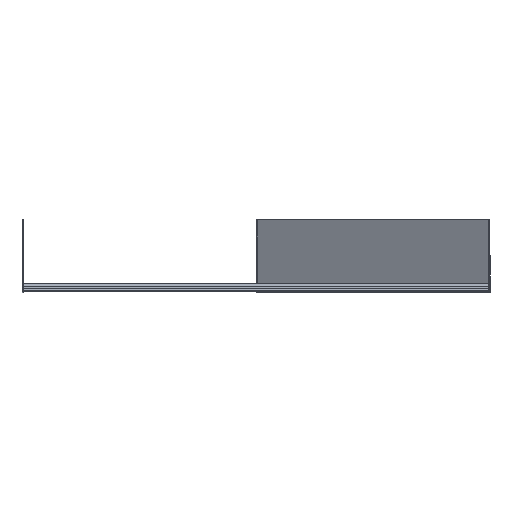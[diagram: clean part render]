
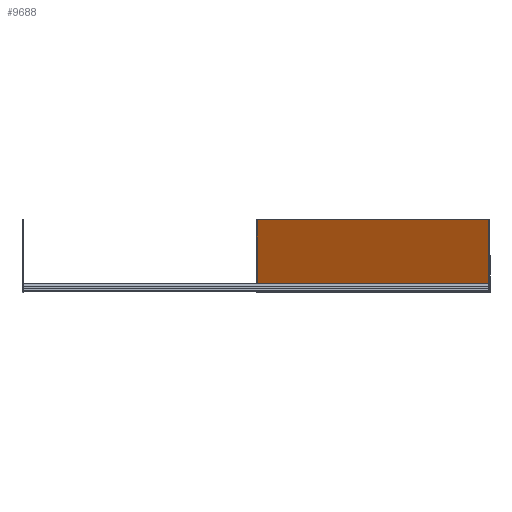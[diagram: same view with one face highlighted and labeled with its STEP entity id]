
A CAD part, top view. The second image highlights one B-rep face of the part: STEP entity #9688.
In plain terms, the highlighted planar face has unit normal (-0.528, 0, 0.849).
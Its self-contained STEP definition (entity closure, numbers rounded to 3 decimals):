
#9 = CARTESIAN_POINT ( 'NONE',  ( 226.651, 0., -278.973 ) ) ;
#52 = LINE ( 'NONE', #3252, #10919 ) ;
#294 = EDGE_LOOP ( 'NONE', ( #8489, #6801, #10212, #4600 ) ) ;
#364 = VERTEX_POINT ( 'NONE', #6896 ) ;
#935 = DIRECTION ( 'NONE',  ( 0.849, 0., 0.528 ) ) ;
#1095 = VERTEX_POINT ( 'NONE', #4659 ) ;
#1140 = LINE ( 'NONE', #9, #6928 ) ;
#1565 = EDGE_CURVE ( 'NONE', #364, #1095, #6779, .T. ) ;
#1994 = CARTESIAN_POINT ( 'NONE',  ( 675., 140., 0. ) ) ;
#2204 = EDGE_CURVE ( 'NONE', #10734, #12168, #1140, .T. ) ;
#3252 = CARTESIAN_POINT ( 'NONE',  ( 675., 0., 0. ) ) ;
#3872 = PLANE ( 'NONE',  #11149 ) ;
#4600 = ORIENTED_EDGE ( 'NONE', *, *, #5055, .T. ) ;
#4659 = CARTESIAN_POINT ( 'NONE',  ( 674.292, 140., -0.44 ) ) ;
#5055 = EDGE_CURVE ( 'NONE', #1095, #12168, #13183, .T. ) ;
#5091 = VECTOR ( 'NONE', #9907, 1000. ) ;
#5833 = CARTESIAN_POINT ( 'NONE',  ( 674.292, 0., -0.44 ) ) ;
#6056 = FACE_OUTER_BOUND ( 'NONE', #294, .T. ) ;
#6779 = LINE ( 'NONE', #5833, #5091 ) ;
#6801 = ORIENTED_EDGE ( 'NONE', *, *, #8957, .F. ) ;
#6896 = CARTESIAN_POINT ( 'NONE',  ( 674.292, 0., -0.44 ) ) ;
#6928 = VECTOR ( 'NONE', #12133, 1000. ) ;
#7942 = DIRECTION ( 'NONE',  ( -0.528, 0., 0.849 ) ) ;
#8307 = DIRECTION ( 'NONE',  ( -0.849, 0., -0.528 ) ) ;
#8406 = CARTESIAN_POINT ( 'NONE',  ( 226.651, 140., -278.973 ) ) ;
#8489 = ORIENTED_EDGE ( 'NONE', *, *, #2204, .F. ) ;
#8957 = EDGE_CURVE ( 'NONE', #364, #10734, #52, .T. ) ;
#9688 = ADVANCED_FACE ( 'NONE', ( #6056 ), #3872, .T. ) ;
#9907 = DIRECTION ( 'NONE',  ( 0., 1., 0. ) ) ;
#10212 = ORIENTED_EDGE ( 'NONE', *, *, #1565, .T. ) ;
#10734 = VERTEX_POINT ( 'NONE', #11875 ) ;
#10865 = CARTESIAN_POINT ( 'NONE',  ( 675., 140., 0. ) ) ;
#10919 = VECTOR ( 'NONE', #11376, 1000. ) ;
#11149 = AXIS2_PLACEMENT_3D ( 'NONE', #10865, #7942, #935 ) ;
#11376 = DIRECTION ( 'NONE',  ( -0.849, 0., -0.528 ) ) ;
#11875 = CARTESIAN_POINT ( 'NONE',  ( 226.651, 0., -278.973 ) ) ;
#12133 = DIRECTION ( 'NONE',  ( 0., 1., 0. ) ) ;
#12168 = VERTEX_POINT ( 'NONE', #8406 ) ;
#13152 = VECTOR ( 'NONE', #8307, 1000. ) ;
#13183 = LINE ( 'NONE', #1994, #13152 ) ;
